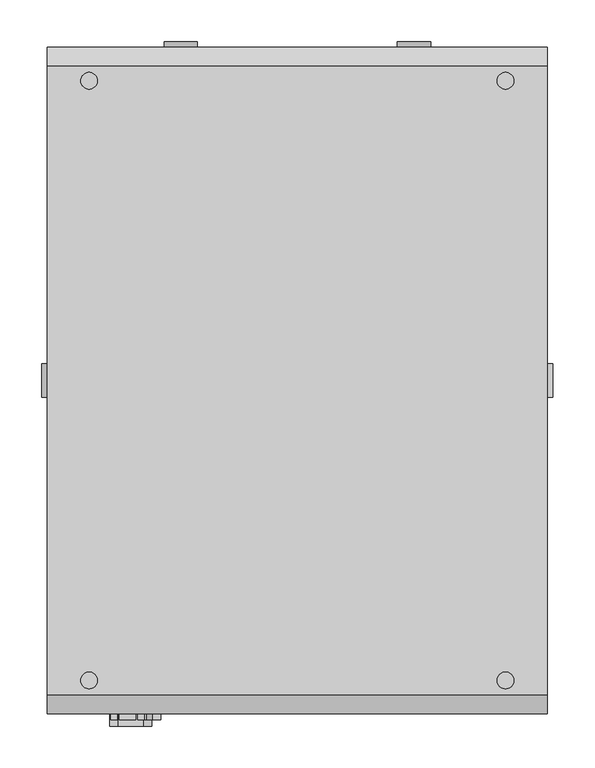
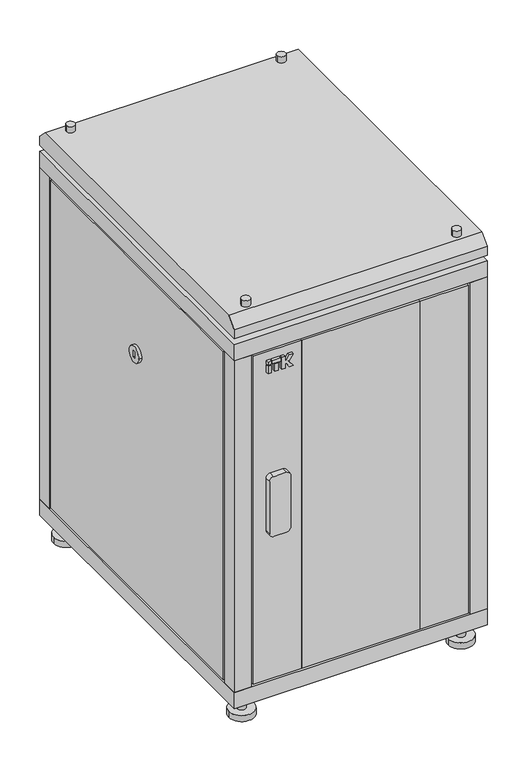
"""IFC4 building model written with IfcOpenShell, lengths in millimetres: proxy geometry, Шкафы ITK серия N_05 : LN05-18U68-G."""

from ifc_helpers import new_model, si_unit, point, frame, frame_2d, origin, origin_with_axes, place, context, project, spatial, polyline, circle_curve, trimmed, segment, composite_curve, outline, extrude, faceted_brep, source, transform, mapped, element, save
from ifc_brep_helpers import plane_surface, cylinder_surface, advanced_brep


def electrical_fixtures_d6580d29(model_context):
    return source(origin(), model_context, "Body", "SolidModel", [
        extrude(outline(polyline([(-215.9746193, -407.0), (-224.197592, -407.0), (-224.197592, -400.0), (-215.9746193, -400.0), (-215.9746193, -407.0)])), frame((0.0, 0.0, 867.0), z_axis=(0.0, 0.0, 1.0), x_axis=(1.0, 0.0, 0.0)), (0.0, 0.0, 1.0), 18.8087618),
        extrude(outline(polyline([(-199.9605777, -407.0), (-207.7053315, -407.0), (-207.7053315, -400.0), (-199.9605777, -400.0), (-199.9605777, -407.0)])), frame((0.0, 0.0, 867.0), z_axis=(0.0, 0.0, 1.0), x_axis=(1.0, 0.0, 0.0)), (0.0, 0.0, 1.0), 18.8087618),
        extrude(outline(polyline([(-215.9746193, -407.0), (-224.197592, -407.0), (-224.197592, -400.0), (-215.9746193, -400.0), (-215.9746193, -407.0)])), frame((0.0, 0.0, 888.4305892), z_axis=(0.0, 0.0, 1.0), x_axis=(1.0, 0.0, 0.0)), (0.0, 0.0, 1.0), 7.9794747),
        extrude(outline(polyline([(867.0, -191.5184175), (867.0, -183.7669278), (878.0271455, -183.7669278), (878.0271455, -180.8031229), (867.0, -173.6420108), (867.0, -164.197592), (881.7278745, -174.8980192), (896.410064, -164.197592), (896.410064, -173.6420108), (885.3829184, -180.8031229), (885.3829184, -183.7669278), (896.410064, -183.7669278), (896.410064, -191.5184175), (867.0, -191.5184175)])), frame((0.0, -407.0, 0.0), z_axis=(0.0, 1.0, 0.0), x_axis=(0.0, 0.0, 1.0)), (0.0, 0.0, 1.0), 7.0),
        extrude(outline(polyline([(-194.0851324, -407.0), (-213.5807768, -407.0), (-213.5807768, -400.0), (-194.0851324, -400.0), (-194.0851324, -407.0)])), frame((0.0, 0.0, 888.4305892), z_axis=(0.0, 0.0, 1.0), x_axis=(1.0, 0.0, 0.0)), (0.0, 0.0, 1.0), 7.9794747),
        extrude(outline(composite_curve([segment(polyline([(611.0, -185.0), (611.0, -215.0)]), True, "CONTINUOUS"), segment(trimmed(circle_curve(frame_2d((601.0, -215.0)), 10.0), [point((611.0, -215.0))], [point((601.0, -225.0))], False, "CARTESIAN"), True, "CONTINUOUS"), segment(polyline([(601.0, -225.0), (471.0, -225.0)]), True, "CONTINUOUS"), segment(trimmed(circle_curve(frame_2d((471.0, -215.0)), 10.0), [point((471.0, -225.0))], [point((461.0, -215.0))], False, "CARTESIAN"), True, "CONTINUOUS"), segment(polyline([(461.0, -215.0), (461.0, -185.0)]), True, "CONTINUOUS"), segment(trimmed(circle_curve(frame_2d((471.0, -185.0)), 10.0), [point((461.0, -185.0))], [point((471.0, -175.0))], False, "CARTESIAN"), True, "CONTINUOUS"), segment(polyline([(471.0, -175.0), (601.0, -175.0)]), True, "CONTINUOUS"), segment(trimmed(circle_curve(frame_2d((601.0, -185.0)), 10.0), [point((601.0, -175.0))], [point((611.0, -185.0))], False, "CARTESIAN"), True, "CONTINUOUS")], self_intersect=False)), frame((0.0, -415.0, 0.0), z_axis=(0.0, 1.0, 0.0), x_axis=(0.0, 0.0, 1.0)), (0.0, 0.0, 1.0), 15.0),
        extrude(outline(polyline([(140.0, -380.0), (140.0, -400.0), (-140.0, -400.0), (-140.0, -380.0), (140.0, -380.0)])), frame((0.0, 0.0, 95.0), z_axis=(0.0, 0.0, 1.0), x_axis=(1.0, 0.0, 0.0)), (0.0, 0.0, 1.0), 822.0),
        extrude(outline(polyline([(255.0, -380.0), (255.0, -400.0), (140.0, -400.0), (140.0, -380.0), (235.0, -380.0), (235.0, -365.0), (245.0, -365.0), (245.0, -380.0), (255.0, -380.0)])), frame((0.0, 0.0, 95.0), z_axis=(0.0, 0.0, 1.0), x_axis=(1.0, 0.0, 0.0)), (0.0, 0.0, 1.0), 822.0),
        extrude(outline(polyline([(-140.0, -400.0), (-255.0, -400.0), (-255.0, -380.0), (-245.0, -380.0), (-245.0, -365.0), (-235.0, -365.0), (-235.0, -380.0), (-140.0, -380.0), (-140.0, -400.0)])), frame((0.0, 0.0, 95.0), z_axis=(0.0, 0.0, 1.0), x_axis=(1.0, 0.0, 0.0)), (0.0, 0.0, 1.0), 822.0),
        extrude(outline(composite_curve([segment(trimmed(circle_curve(frame_2d((-260.0, 360.0)), 10.0), [point((-250.0, 360.0))], [point((-270.0, 360.0))], False, "CARTESIAN"), True, "CONTINUOUS"), segment(trimmed(circle_curve(frame_2d((-260.0, 360.0)), 10.0), [point((-270.0, 360.0))], [point((-250.0, 360.0))], False, "CARTESIAN"), True, "CONTINUOUS")], self_intersect=False)), frame((0.0, 0.0, 15.0), z_axis=(0.0, 0.0, 1.0), x_axis=(1.0, 0.0, 0.0)), (0.0, 0.0, 1.0), 35.0),
        extrude(outline(composite_curve([segment(trimmed(circle_curve(frame_2d((260.0, 360.0)), 10.0), [point((270.0, 360.0))], [point((250.0, 360.0))], False, "CARTESIAN"), True, "CONTINUOUS"), segment(trimmed(circle_curve(frame_2d((260.0, 360.0)), 10.0), [point((250.0, 360.0))], [point((270.0, 360.0))], False, "CARTESIAN"), True, "CONTINUOUS")], self_intersect=False)), frame((0.0, 0.0, 15.0), z_axis=(0.0, 0.0, 1.0), x_axis=(1.0, 0.0, 0.0)), (0.0, 0.0, 1.0), 35.0),
        extrude(outline(composite_curve([segment(trimmed(circle_curve(frame_2d((-260.0, -360.0)), 10.0), [point((-250.0, -360.0))], [point((-270.0, -360.0))], False, "CARTESIAN"), True, "CONTINUOUS"), segment(trimmed(circle_curve(frame_2d((-260.0, -360.0)), 10.0), [point((-270.0, -360.0))], [point((-250.0, -360.0))], False, "CARTESIAN"), True, "CONTINUOUS")], self_intersect=False)), frame((0.0, 0.0, 15.0), z_axis=(0.0, 0.0, 1.0), x_axis=(1.0, 0.0, 0.0)), (0.0, 0.0, 1.0), 35.0),
        extrude(outline(composite_curve([segment(trimmed(circle_curve(frame_2d((260.0, -360.0)), 10.0), [point((270.0, -360.0))], [point((250.0, -360.0))], False, "CARTESIAN"), True, "CONTINUOUS"), segment(trimmed(circle_curve(frame_2d((260.0, -360.0)), 10.0), [point((250.0, -360.0))], [point((270.0, -360.0))], False, "CARTESIAN"), True, "CONTINUOUS")], self_intersect=False)), frame((0.0, 0.0, 15.0), z_axis=(0.0, 0.0, 1.0), x_axis=(1.0, 0.0, 0.0)), (0.0, 0.0, 1.0), 35.0),
        extrude(outline(composite_curve([segment(trimmed(circle_curve(frame_2d((-260.0, 360.0)), 30.0), [point((-230.0, 360.0))], [point((-290.0, 360.0))], False, "CARTESIAN"), True, "CONTINUOUS"), segment(trimmed(circle_curve(frame_2d((-260.0, 360.0)), 30.0), [point((-290.0, 360.0))], [point((-230.0, 360.0))], False, "CARTESIAN"), True, "CONTINUOUS")], self_intersect=False)), origin_with_axes(), (0.0, 0.0, 1.0), 15.0),
        extrude(outline(composite_curve([segment(trimmed(circle_curve(frame_2d((260.0, 360.0)), 30.0), [point((290.0, 360.0))], [point((230.0, 360.0))], False, "CARTESIAN"), True, "CONTINUOUS"), segment(trimmed(circle_curve(frame_2d((260.0, 360.0)), 30.0), [point((230.0, 360.0))], [point((290.0, 360.0))], False, "CARTESIAN"), True, "CONTINUOUS")], self_intersect=False)), origin_with_axes(), (0.0, 0.0, 1.0), 15.0),
        extrude(outline(composite_curve([segment(trimmed(circle_curve(frame_2d((-260.0, -360.0)), 30.0), [point((-230.0, -360.0))], [point((-290.0, -360.0))], False, "CARTESIAN"), True, "CONTINUOUS"), segment(trimmed(circle_curve(frame_2d((-260.0, -360.0)), 30.0), [point((-290.0, -360.0))], [point((-230.0, -360.0))], False, "CARTESIAN"), True, "CONTINUOUS")], self_intersect=False)), origin_with_axes(), (0.0, 0.0, 1.0), 15.0),
        extrude(outline(composite_curve([segment(trimmed(circle_curve(frame_2d((260.0, -360.0)), 30.0), [point((290.0, -360.0))], [point((230.0, -360.0))], False, "CARTESIAN"), True, "CONTINUOUS"), segment(trimmed(circle_curve(frame_2d((260.0, -360.0)), 30.0), [point((230.0, -360.0))], [point((290.0, -360.0))], False, "CARTESIAN"), True, "CONTINUOUS")], self_intersect=False)), origin_with_axes(), (0.0, 0.0, 1.0), 15.0),
        advanced_brep(
        [(260.0, 360.0, 1037.0), (240.0, 360.0, 1037.0), (260.0, -360.0, 1037.0), (240.0, -360.0, 1037.0), (-240.0, 360.0, 1037.0), (-260.0, 360.0, 1037.0), (-240.0, -360.0, 1037.0), (-260.0, -360.0, 1037.0), (260.0, 360.0, 962.0), (240.0, 360.0, 962.0), (260.0, -360.0, 962.0), (240.0, -360.0, 962.0), (-240.0, 360.0, 962.0), (-260.0, 360.0, 962.0), (-240.0, -360.0, 962.0), (-260.0, -360.0, 962.0), (260.0, 360.0, 1022.0), (240.0, 360.0, 1022.0), (240.0, 360.0, 977.0), (260.0, 360.0, 977.0), (260.0, -360.0, 1022.0), (240.0, -360.0, 1022.0), (240.0, -360.0, 977.0), (260.0, -360.0, 977.0), (-240.0, 360.0, 1022.0), (-260.0, 360.0, 1022.0), (-260.0, 360.0, 977.0), (-240.0, 360.0, 977.0), (-240.0, -360.0, 1022.0), (-260.0, -360.0, 1022.0), (-260.0, -360.0, 977.0), (-240.0, -360.0, 977.0), (300.0, 377.5, 1022.0), (300.0, -377.5, 1022.0), (300.0, -400.0, 999.5), (300.0, -400.0, 977.0), (300.0, 400.0, 977.0), (300.0, 400.0, 999.5), (-300.0, 377.5, 1022.0), (-300.0, 400.0, 999.5), (-300.0, 400.0, 977.0), (-300.0, -400.0, 977.0), (-300.0, -400.0, 999.5), (-300.0, -377.5, 1022.0)],
        [
            (0, 1, circle_curve(frame((250.0, 360.0, 1037.0), z_axis=(0.0, 0.0, 1.0), x_axis=(-1.0, 0.0, 0.0)), 10.0)),
            (1, 0, circle_curve(frame((250.0, 360.0, 1037.0), z_axis=(0.0, 0.0, 1.0), x_axis=(-1.0, 0.0, 0.0)), 10.0)),
            (2, 3, circle_curve(frame((250.0, -360.0, 1037.0), z_axis=(0.0, 0.0, 1.0), x_axis=(-1.0, 0.0, 0.0)), 10.0)),
            (3, 2, circle_curve(frame((250.0, -360.0, 1037.0), z_axis=(0.0, 0.0, 1.0), x_axis=(-1.0, 0.0, 0.0)), 10.0)),
            (4, 5, circle_curve(frame((-250.0, 360.0, 1037.0), z_axis=(0.0, 0.0, 1.0), x_axis=(-1.0, 0.0, 0.0)), 10.0)),
            (5, 4, circle_curve(frame((-250.0, 360.0, 1037.0), z_axis=(0.0, 0.0, 1.0), x_axis=(-1.0, 0.0, 0.0)), 10.0)),
            (6, 7, circle_curve(frame((-250.0, -360.0, 1037.0), z_axis=(0.0, 0.0, 1.0), x_axis=(-1.0, 0.0, 0.0)), 10.0)),
            (7, 6, circle_curve(frame((-250.0, -360.0, 1037.0), z_axis=(0.0, 0.0, 1.0), x_axis=(-1.0, 0.0, 0.0)), 10.0)),
            (8, 9, circle_curve(frame((250.0, 360.0, 962.0), z_axis=(0.0, 0.0, -1.0), x_axis=(-1.0, 0.0, 0.0)), 10.0)),
            (9, 8, circle_curve(frame((250.0, 360.0, 962.0), z_axis=(0.0, 0.0, -1.0), x_axis=(-1.0, 0.0, 0.0)), 10.0)),
            (10, 11, circle_curve(frame((250.0, -360.0, 962.0), z_axis=(0.0, 0.0, -1.0), x_axis=(-1.0, 0.0, 0.0)), 10.0)),
            (11, 10, circle_curve(frame((250.0, -360.0, 962.0), z_axis=(0.0, 0.0, -1.0), x_axis=(-1.0, 0.0, 0.0)), 10.0)),
            (12, 13, circle_curve(frame((-250.0, 360.0, 962.0), z_axis=(0.0, 0.0, -1.0), x_axis=(-1.0, 0.0, 0.0)), 10.0)),
            (13, 12, circle_curve(frame((-250.0, 360.0, 962.0), z_axis=(0.0, 0.0, -1.0), x_axis=(-1.0, 0.0, 0.0)), 10.0)),
            (14, 15, circle_curve(frame((-250.0, -360.0, 962.0), z_axis=(0.0, 0.0, -1.0), x_axis=(-1.0, 0.0, 0.0)), 10.0)),
            (15, 14, circle_curve(frame((-250.0, -360.0, 962.0), z_axis=(0.0, 0.0, -1.0), x_axis=(-1.0, 0.0, 0.0)), 10.0)),
            (0, 16),
            (16, 17, circle_curve(frame((250.0, 360.0, 1022.0), z_axis=(0.0, 0.0, 1.0), x_axis=(-1.0, 0.0, 0.0)), 10.0)),
            (17, 1),
            (9, 18),
            (18, 19, circle_curve(frame((250.0, 360.0, 977.0), z_axis=(0.0, 0.0, -1.0), x_axis=(-1.0, 0.0, 0.0)), 10.0)),
            (19, 8),
            (17, 16, circle_curve(frame((250.0, 360.0, 1022.0), z_axis=(0.0, 0.0, 1.0), x_axis=(-1.0, 0.0, 0.0)), 10.0)),
            (19, 18, circle_curve(frame((250.0, 360.0, 977.0), z_axis=(0.0, 0.0, -1.0), x_axis=(-1.0, 0.0, 0.0)), 10.0)),
            (2, 20),
            (20, 21, circle_curve(frame((250.0, -360.0, 1022.0), z_axis=(0.0, 0.0, 1.0), x_axis=(-1.0, 0.0, 0.0)), 10.0)),
            (21, 3),
            (11, 22),
            (22, 23, circle_curve(frame((250.0, -360.0, 977.0), z_axis=(0.0, 0.0, -1.0), x_axis=(-1.0, 0.0, 0.0)), 10.0)),
            (23, 10),
            (21, 20, circle_curve(frame((250.0, -360.0, 1022.0), z_axis=(0.0, 0.0, 1.0), x_axis=(-1.0, 0.0, 0.0)), 10.0)),
            (23, 22, circle_curve(frame((250.0, -360.0, 977.0), z_axis=(0.0, 0.0, -1.0), x_axis=(-1.0, 0.0, 0.0)), 10.0)),
            (4, 24),
            (24, 25, circle_curve(frame((-250.0, 360.0, 1022.0), z_axis=(0.0, 0.0, 1.0), x_axis=(-1.0, 0.0, 0.0)), 10.0)),
            (25, 5),
            (13, 26),
            (26, 27, circle_curve(frame((-250.0, 360.0, 977.0), z_axis=(0.0, 0.0, -1.0), x_axis=(-1.0, 0.0, 0.0)), 10.0)),
            (27, 12),
            (25, 24, circle_curve(frame((-250.0, 360.0, 1022.0), z_axis=(0.0, 0.0, 1.0), x_axis=(-1.0, 0.0, 0.0)), 10.0)),
            (27, 26, circle_curve(frame((-250.0, 360.0, 977.0), z_axis=(0.0, 0.0, -1.0), x_axis=(-1.0, 0.0, 0.0)), 10.0)),
            (6, 28),
            (28, 29, circle_curve(frame((-250.0, -360.0, 1022.0), z_axis=(0.0, 0.0, 1.0), x_axis=(-1.0, 0.0, 0.0)), 10.0)),
            (29, 7),
            (15, 30),
            (30, 31, circle_curve(frame((-250.0, -360.0, 977.0), z_axis=(0.0, 0.0, -1.0), x_axis=(-1.0, 0.0, 0.0)), 10.0)),
            (31, 14),
            (29, 28, circle_curve(frame((-250.0, -360.0, 1022.0), z_axis=(0.0, 0.0, 1.0), x_axis=(-1.0, 0.0, 0.0)), 10.0)),
            (31, 30, circle_curve(frame((-250.0, -360.0, 977.0), z_axis=(0.0, 0.0, -1.0), x_axis=(-1.0, 0.0, 0.0)), 10.0)),
            (32, 33),
            (33, 34),
            (34, 35),
            (35, 36),
            (36, 37),
            (37, 32),
            (38, 39),
            (39, 40),
            (40, 41),
            (41, 42),
            (42, 43),
            (43, 38),
            (32, 38),
            (43, 33),
            (42, 34),
            (41, 35),
            (40, 36),
            (39, 37),
        ],
        [
            plane_surface(frame((240.0, 360.0, 1037.0), z_axis=(0.0, 0.0, 1.0), x_axis=(0.0, -1.0, 0.0))),
            plane_surface(frame((240.0, 360.0, 962.0), z_axis=(0.0, 0.0, -1.0), x_axis=(0.0, 1.0, 0.0))),
            cylinder_surface(frame((250.0, 360.0, 962.0), z_axis=(0.0, 0.0, 1.0), x_axis=(-1.0, 0.0, 0.0)), 10.0),
            cylinder_surface(frame((250.0, -360.0, 1710.0), z_axis=(0.0, 0.0, 1.0), x_axis=(-1.0, 0.0, 0.0)), 10.0),
            cylinder_surface(frame((-250.0, 360.0, 1710.0), z_axis=(0.0, 0.0, 1.0), x_axis=(-1.0, 0.0, 0.0)), 10.0),
            cylinder_surface(frame((-250.0, -360.0, 1710.0), z_axis=(0.0, 0.0, 1.0), x_axis=(-1.0, 0.0, 0.0)), 10.0),
            plane_surface(frame((300.0, -377.5, 1022.0), z_axis=(1.0, 0.0, 0.0), x_axis=(0.0, -1.0, 0.0))),
            plane_surface(frame((-300.0, -377.5, 1022.0), z_axis=(-1.0, 0.0, 0.0), x_axis=(0.0, 1.0, 0.0))),
            plane_surface(frame((300.0, 377.5, 1022.0), z_axis=(0.0, 0.0, 1.0), x_axis=(-1.0, 0.0, 0.0))),
            plane_surface(frame((300.0, -377.5, 1022.0), z_axis=(0.0, -0.7071067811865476, 0.7071067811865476), x_axis=(-1.0, 0.0, 0.0))),
            plane_surface(frame((300.0, -400.0, 999.5), z_axis=(0.0, -1.0, 0.0), x_axis=(-1.0, 0.0, 0.0))),
            plane_surface(frame((300.0, -400.0, 977.0), z_axis=(0.0, 0.0, -1.0), x_axis=(-1.0, 0.0, 0.0))),
            plane_surface(frame((300.0, 400.0, 977.0), z_axis=(0.0, 1.0, 0.0), x_axis=(-1.0, 0.0, 0.0))),
            plane_surface(frame((300.0, 400.0, 999.5), z_axis=(0.0, 0.7071067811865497, 0.7071067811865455), x_axis=(-1.0, 0.0, 0.0))),
        ],
        [
            (0, [[1, 2]]),
            (0, [[3, 4]]),
            (0, [[5, 6]]),
            (0, [[7, 8]]),
            (1, [[9, 10]]),
            (1, [[11, 12]]),
            (1, [[13, 14]]),
            (1, [[15, 16]]),
            (2, [[-1, 17, 18, 19]]),
            (2, [[-10, 20, 21, 22]]),
            (2, [[-2, -19, 23, -17]]),
            (2, [[-9, -22, 24, -20]]),
            (3, [[-3, 25, 26, 27]]),
            (3, [[-12, 28, 29, 30]]),
            (3, [[-4, -27, 31, -25]]),
            (3, [[-11, -30, 32, -28]]),
            (4, [[-5, 33, 34, 35]]),
            (4, [[-14, 36, 37, 38]]),
            (4, [[-6, -35, 39, -33]]),
            (4, [[-13, -38, 40, -36]]),
            (5, [[-7, 41, 42, 43]]),
            (5, [[-16, 44, 45, 46]]),
            (5, [[-8, -43, 47, -41]]),
            (5, [[-15, -46, 48, -44]]),
            (6, [[49, 50, 51, 52, 53, 54]]),
            (7, [[55, 56, 57, 58, 59, 60]]),
            (8, [[-49, 61, -60, 62], [-18, -23], [-26, -31], [-34, -39], [-42, -47]]),
            (9, [[-50, -62, -59, 63]]),
            (10, [[-51, -63, -58, 64]]),
            (11, [[-52, -64, -57, 65], [-21, -24], [-29, -32], [-37, -40], [-45, -48]]),
            (12, [[-53, -65, -56, 66]]),
            (13, [[-54, -66, -55, -61]]),
        ],
    ),
        extrude(outline(polyline([(260.0, 360.0), (260.0, 345.0), (290.0, 345.0), (290.0, -345.0), (260.0, -345.0), (260.0, -360.0), (245.0, -360.0), (245.0, -380.0), (-245.0, -380.0), (-245.0, -360.0), (-260.0, -360.0), (-260.0, -345.0), (-290.0, -345.0), (-290.0, 345.0), (-260.0, 345.0), (-260.0, 360.0), (-245.0, 360.0), (-245.0, 390.0), (245.0, 390.0), (245.0, 360.0), (260.0, 360.0)])), frame((0.0, 0.0, 90.0), z_axis=(0.0, 0.0, 1.0), x_axis=(1.0, 0.0, 0.0)), (0.0, 0.0, 1.0), 5.0),
        extrude(outline(polyline([(260.0, 360.0), (260.0, 345.0), (290.0, 345.0), (290.0, -345.0), (260.0, -345.0), (260.0, -360.0), (245.0, -360.0), (245.0, -380.0), (-245.0, -380.0), (-245.0, -360.0), (-260.0, -360.0), (-260.0, -345.0), (-290.0, -345.0), (-290.0, 345.0), (-260.0, 345.0), (-260.0, 360.0), (-245.0, 360.0), (-245.0, 390.0), (245.0, 390.0), (245.0, 360.0), (260.0, 360.0)])), frame((0.0, 0.0, 917.0), z_axis=(0.0, 0.0, 1.0), x_axis=(1.0, 0.0, 0.0)), (0.0, 0.0, 1.0), 5.0),
        extrude(outline(polyline([(300.0, -400.0), (-300.0, -400.0), (-300.0, 400.0), (300.0, 400.0), (300.0, -400.0)])), frame((0.0, 0.0, 922.0), z_axis=(0.0, 0.0, 1.0), x_axis=(1.0, 0.0, 0.0)), (0.0, 0.0, 1.0), 40.0),
        extrude(outline(polyline([(300.0, -400.0), (-300.0, -400.0), (-300.0, 400.0), (300.0, 400.0), (300.0, -400.0)])), frame((0.0, 0.0, 50.0), z_axis=(0.0, 0.0, 1.0), x_axis=(1.0, 0.0, 0.0)), (0.0, 0.0, 1.0), 40.0),
        extrude(outline(composite_curve([segment(trimmed(circle_curve(frame_2d((506.0, 140.0)), 20.0), [point((506.0, 160.0))], [point((506.0, 120.0))], False, "CARTESIAN"), True, "CONTINUOUS"), segment(trimmed(circle_curve(frame_2d((506.0, 140.0)), 20.0), [point((506.0, 120.0))], [point((506.0, 160.0))], False, "CARTESIAN"), True, "CONTINUOUS")], self_intersect=False), holes=[polyline([(497.7814397, 137.0), (514.2185603, 137.0), (514.2185603, 143.0), (497.7814397, 143.0), (497.7814397, 137.0)])]), frame((0.0, 400.0, 0.0), z_axis=(0.0, 1.0, 0.0), x_axis=(0.0, 0.0, 1.0)), (0.0, 0.0, 1.0), 7.0),
        extrude(outline(composite_curve([segment(trimmed(circle_curve(frame_2d((506.0, -140.0)), 20.0), [point((506.0, -120.0))], [point((506.0, -160.0))], False, "CARTESIAN"), True, "CONTINUOUS"), segment(trimmed(circle_curve(frame_2d((506.0, -140.0)), 20.0), [point((506.0, -160.0))], [point((506.0, -120.0))], False, "CARTESIAN"), True, "CONTINUOUS")], self_intersect=False), holes=[polyline([(497.7814397, -143.0), (514.2185603, -143.0), (514.2185603, -137.0), (497.7814397, -137.0), (497.7814397, -143.0)])]), frame((0.0, 400.0, 0.0), z_axis=(0.0, 1.0, 0.0), x_axis=(0.0, 0.0, 1.0)), (0.0, 0.0, 1.0), 7.0),
        faceted_brep([(255.0, 400.0, 917.0), (-255.0, 400.0, 917.0), (-255.0, 370.0, 917.0), (-245.0, 370.0, 917.0), (-245.0, 390.0, 917.0), (245.0, 390.0, 917.0), (245.0, 370.0, 917.0), (255.0, 370.0, 917.0), (255.0, 400.0, 744.5265979), (-255.0, 400.0, 744.5265979), (175.0, 400.0, 792.0), (175.0, 400.0, 872.0), (-175.0, 400.0, 872.0), (-175.0, 400.0, 792.0), (-255.0, 370.0, 744.5265979), (-245.0, 370.0, 744.5265979), (-245.0, 390.0, 744.5265979), (245.0, 390.0, 744.5265979), (175.0, 390.0, 872.0), (175.0, 390.0, 792.0), (-175.0, 390.0, 792.0), (-175.0, 390.0, 872.0), (245.0, 370.0, 744.5265979), (255.0, 370.0, 744.5265979)], [[[0, 1, 2, 3, 4, 5, 6, 7]], [[1, 0, 8, 9], [10, 11, 12, 13]], [[2, 1, 9, 14]], [[3, 2, 14, 15]], [[4, 3, 15, 16]], [[5, 4, 16, 17], [18, 19, 20, 21]], [[6, 5, 17, 22]], [[7, 6, 22, 23]], [[0, 7, 23, 8]], [[9, 8, 23, 22, 17, 16, 15, 14]], [[10, 19, 18, 11]], [[11, 18, 21, 12]], [[12, 21, 20, 13]], [[19, 10, 13, 20]]]),
        faceted_brep([(255.0, 400.0, 95.0), (255.0, 370.0, 95.0), (245.0, 370.0, 95.0), (245.0, 390.0, 95.0), (-245.0, 390.0, 95.0), (-245.0, 370.0, 95.0), (-255.0, 370.0, 95.0), (-255.0, 400.0, 95.0), (-255.0, 400.0, 267.4734021), (255.0, 400.0, 267.4734021), (175.0, 400.0, 220.0), (-175.0, 400.0, 220.0), (-175.0, 400.0, 140.0), (175.0, 400.0, 140.0), (-255.0, 370.0, 267.4734021), (-245.0, 370.0, 267.4734021), (-245.0, 390.0, 267.4734021), (245.0, 390.0, 267.4734021), (-175.0, 390.0, 220.0), (175.0, 390.0, 220.0), (175.0, 390.0, 140.0), (-175.0, 390.0, 140.0), (245.0, 370.0, 267.4734021), (255.0, 370.0, 267.4734021)], [[[0, 1, 2, 3, 4, 5, 6, 7]], [[0, 7, 8, 9], [10, 11, 12, 13]], [[7, 6, 14, 8]], [[6, 5, 15, 14]], [[5, 4, 16, 15]], [[4, 3, 17, 16], [18, 19, 20, 21]], [[3, 2, 22, 17]], [[2, 1, 23, 22]], [[1, 0, 9, 23]], [[9, 8, 14, 15, 16, 17, 22, 23]], [[10, 19, 18, 11]], [[11, 18, 21, 12]], [[12, 21, 20, 13]], [[19, 10, 13, 20]]]),
        faceted_brep([(255.0, 400.0, 739.4734021), (255.0, 400.0, 272.5265979), (-255.0, 400.0, 272.5265979), (-255.0, 400.0, 739.4734021), (-255.0, 370.0, 272.5265979), (-255.0, 370.0, 739.4734021), (-245.0, 370.0, 272.5265979), (-245.0, 370.0, 739.4734021), (-245.0, 390.0, 272.5265979), (-245.0, 390.0, 739.4734021), (245.0, 390.0, 272.5265979), (245.0, 390.0, 739.4734021), (245.0, 370.0, 272.5265979), (245.0, 370.0, 739.4734021), (255.0, 370.0, 272.5265979), (255.0, 370.0, 739.4734021)], [[[0, 1, 2, 3]], [[3, 2, 4, 5]], [[5, 4, 6, 7]], [[7, 6, 8, 9]], [[9, 8, 10, 11]], [[11, 10, 12, 13]], [[13, 12, 14, 15]], [[1, 0, 15, 14]], [[2, 1, 14, 12, 10, 8, 6, 4]], [[0, 3, 5, 7, 9, 11, 13, 15]]]),
        faceted_brep([(-170.0, 400.0, 215.0), (170.0, 400.0, 215.0), (170.0, 400.0, 145.0), (-170.0, 400.0, 145.0), (170.0, 390.0, 215.0), (-170.0, 390.0, 215.0), (-170.0, 390.0, 145.0), (170.0, 390.0, 145.0)], [[[0, 1, 2, 3]], [[4, 5, 6, 7]], [[0, 5, 4, 1]], [[1, 4, 7, 2]], [[2, 7, 6, 3]], [[5, 0, 3, 6]]]),
        faceted_brep([(-170.0, 400.0, 797.0), (-170.0, 400.0, 867.0), (170.0, 400.0, 867.0), (170.0, 400.0, 797.0), (-170.0, 390.0, 867.0), (-170.0, 390.0, 797.0), (170.0, 390.0, 797.0), (170.0, 390.0, 867.0)], [[[0, 1, 2, 3]], [[4, 5, 6, 7]], [[0, 5, 4, 1]], [[1, 4, 7, 2]], [[2, 7, 6, 3]], [[5, 0, 3, 6]]]),
        extrude(outline(composite_curve([segment(trimmed(circle_curve(frame_2d((0.0, 698.0)), 20.0), [point((-20.0, 698.0))], [point((20.0, 698.0))], False, "CARTESIAN"), True, "CONTINUOUS"), segment(trimmed(circle_curve(frame_2d((0.0, 698.0)), 20.0), [point((20.0, 698.0))], [point((-20.0, 698.0))], False, "CARTESIAN"), True, "CONTINUOUS")], self_intersect=False), holes=[polyline([(3.0, 689.7814397), (3.0, 706.2185603), (-3.0, 706.2185603), (-3.0, 689.7814397), (3.0, 689.7814397)])]), frame((300.0, 0.0, 0.0), z_axis=(1.0, 0.0, 0.0), x_axis=(0.0, 1.0, 0.0)), (0.0, 0.0, 1.0), 7.0),
        extrude(outline(composite_curve([segment(trimmed(circle_curve(frame_2d((0.0, 698.0)), 20.0), [point((20.0, 698.0))], [point((-20.0, 698.0))], False, "CARTESIAN"), True, "CONTINUOUS"), segment(trimmed(circle_curve(frame_2d((0.0, 698.0)), 20.0), [point((-20.0, 698.0))], [point((20.0, 698.0))], False, "CARTESIAN"), True, "CONTINUOUS")], self_intersect=False), holes=[polyline([(-3.0, 689.7814397), (3.0, 689.7814397), (3.0, 706.2185603), (-3.0, 706.2185603), (-3.0, 689.7814397)])]), frame((-307.0, 0.0, 0.0), z_axis=(1.0, 0.0, 0.0), x_axis=(0.0, 1.0, 0.0)), (0.0, 0.0, 1.0), 7.0),
        extrude(outline(polyline([(-270.0, 355.0), (-270.0, 345.0), (-289.9803177, 345.0), (-289.9803177, -345.0), (-269.9803177, -345.0), (-269.9803177, -355.0), (-300.0, -355.0), (-300.0, 355.0), (-270.0, 355.0)])), frame((0.0, 0.0, 95.0), z_axis=(0.0, 0.0, 1.0), x_axis=(1.0, 0.0, 0.0)), (0.0, 0.0, 1.0), 822.0),
        extrude(outline(polyline([(269.9803177, 355.0), (300.0, 355.0), (300.0, -355.0), (269.9803177, -355.0), (269.9803177, -345.0), (289.9803177, -345.0), (289.9803177, 345.0), (269.9803177, 345.0), (269.9803177, 355.0)])), frame((0.0, 0.0, 95.0), z_axis=(0.0, 0.0, 1.0), x_axis=(1.0, 0.0, 0.0)), (0.0, 0.0, 1.0), 822.0),
        extrude(outline(polyline([(-270.0, -360.0), (-270.0, -345.0), (-260.0, -345.0), (-260.0, -360.0), (-245.0, -360.0), (-245.0, -380.0), (-260.0, -380.0), (-260.0, -400.0), (-300.0, -400.0), (-300.0, -360.0), (-270.0, -360.0)]), holes=[polyline([(-267.0, -363.0), (-297.0, -363.0), (-297.0, -397.0), (-263.0, -397.0), (-263.0, -377.0), (-248.0, -377.0), (-248.0, -363.0), (-263.0, -363.0), (-263.0, -348.0), (-267.0, -348.0), (-267.0, -363.0)])]), frame((0.0, 0.0, 90.0), z_axis=(0.0, 0.0, 1.0), x_axis=(1.0, 0.0, 0.0)), (0.0, 0.0, 1.0), 832.0),
        extrude(outline(polyline([(270.0, -360.0), (300.0, -360.0), (300.0, -400.0), (260.0, -400.0), (260.0, -380.0), (245.0, -380.0), (245.0, -360.0), (260.0, -360.0), (260.0, -345.0), (270.0, -345.0), (270.0, -360.0)]), holes=[polyline([(297.0, -397.0), (297.0, -363.0), (267.0, -363.0), (267.0, -348.0), (263.0, -348.0), (263.0, -363.0), (248.0, -363.0), (248.0, -377.0), (263.0, -377.0), (263.0, -397.0), (297.0, -397.0)])]), frame((0.0, 0.0, 90.0), z_axis=(0.0, 0.0, 1.0), x_axis=(1.0, 0.0, 0.0)), (0.0, 0.0, 1.0), 832.0),
        extrude(outline(polyline([(270.0, 360.0), (270.0, 345.0), (260.0, 345.0), (260.0, 360.0), (245.0, 360.0), (245.0, 370.0), (260.0, 370.0), (260.0, 400.0), (300.0, 400.0), (300.0, 360.0), (270.0, 360.0)]), holes=[polyline([(297.0, 363.0), (297.0, 397.0), (263.0, 397.0), (263.0, 367.0), (248.0, 367.0), (248.0, 363.0), (263.0, 363.0), (263.0, 348.0), (267.0, 348.0), (267.0, 363.0), (297.0, 363.0)])]), frame((0.0, 0.0, 90.0), z_axis=(0.0, 0.0, 1.0), x_axis=(1.0, 0.0, 0.0)), (0.0, 0.0, 1.0), 832.0),
        extrude(outline(polyline([(-270.0, 360.0), (-300.0, 360.0), (-300.0, 400.0), (-260.0, 400.0), (-260.0, 370.0), (-245.0, 370.0), (-245.0, 360.0), (-260.0, 360.0), (-260.0, 345.0), (-270.0, 345.0), (-270.0, 360.0)]), holes=[polyline([(-297.0, 397.0), (-297.0, 363.0), (-267.0, 363.0), (-267.0, 348.0), (-263.0, 348.0), (-263.0, 363.0), (-248.0, 363.0), (-248.0, 367.0), (-263.0, 367.0), (-263.0, 397.0), (-297.0, 397.0)])]), frame((0.0, 0.0, 90.0), z_axis=(0.0, 0.0, 1.0), x_axis=(1.0, 0.0, 0.0)), (0.0, 0.0, 1.0), 832.0),
    ])


if __name__ == "__main__":
    model = new_model("IFC4")
    model_context = context("Model", 3, world=origin())
    ifc_project = project(units=[si_unit("LENGTHUNIT", "METRE", prefix="MILLI")], contexts=[model_context])
    site = spatial("IfcSite", under=ifc_project)
    building = spatial("IfcBuilding", under=site)
    placement = place(None, origin())
    electrical_fixtures_shape = electrical_fixtures_d6580d29(model_context)
    element("IfcBuildingElementProxy", 1, Name="Шкафы ITK серия N_05 : LN05-18U68-G", ObjectType="Шкафы ITK серия N_05 : LN05-18U68-G", at=placement, inside=building, context=model_context, shape_type="MappedRepresentation", body=[
        mapped(electrical_fixtures_shape, transform((0.0, 0.0, 0.0), x_axis=(1.0, 0.0, 0.0), y_axis=(0.0, 1.0, 0.0), z_axis=(0.0, 0.0, 1.0))),
    ])
    save(model, "model.ifc")
